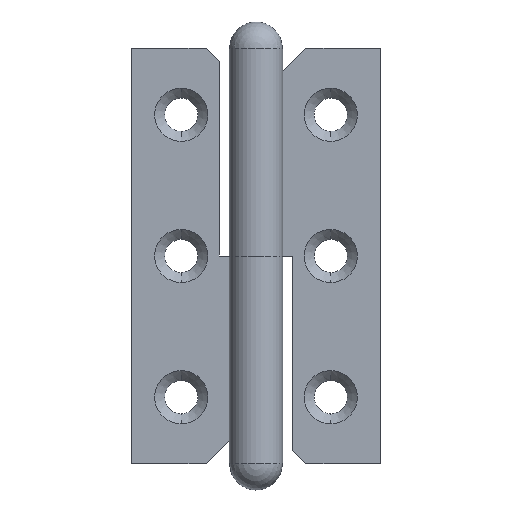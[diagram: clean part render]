
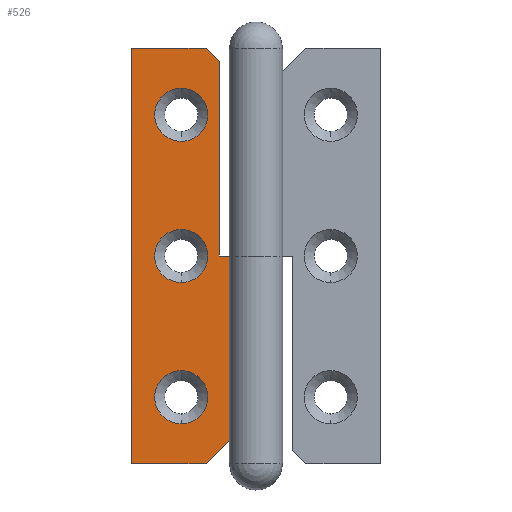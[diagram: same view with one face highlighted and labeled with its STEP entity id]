
A CAD part, front view. The second image highlights one B-rep face of the part: STEP entity #526.
In plain terms, the highlighted planar face has unit normal (0, -1, 0).
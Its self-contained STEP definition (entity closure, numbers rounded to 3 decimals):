
#157=CARTESIAN_POINT('',(-3.186,0.3,-25.0));
#158=VERTEX_POINT('',#157);
#166=CARTESIAN_POINT('',(-3.186,0.3,-47.186));
#167=VERTEX_POINT('',#166);
#168=CARTESIAN_POINT('',(-3.186,0.3,-25.0));
#169=DIRECTION('',(0.0,0.0,-1.0));
#170=VECTOR('',#169,22.186);
#171=LINE('',#168,#170);
#172=EDGE_CURVE('',#158,#167,#171,.T.);
#208=CARTESIAN_POINT('',(-9.0,0.3,-21.8));
#209=VERTEX_POINT('',#208);
#225=CARTESIAN_POINT('',(-9.0,0.3,-28.2));
#226=VERTEX_POINT('',#225);
#233=CARTESIAN_POINT('',(-9.0,0.3,-25.0));
#234=DIRECTION('',(0.0,1.0,0.0));
#235=DIRECTION('',(0.0,0.0,1.0));
#236=AXIS2_PLACEMENT_3D('',#233,#234,#235);
#237=CIRCLE('',#236,3.2);
#238=EDGE_CURVE('',#209,#226,#237,.T.);
#250=CARTESIAN_POINT('',(-9.,0.3,-4.8));
#251=VERTEX_POINT('',#250);
#267=CARTESIAN_POINT('',(-9.,0.3,-11.2));
#268=VERTEX_POINT('',#267);
#275=CARTESIAN_POINT('',(-9.,0.3,-8.0));
#276=DIRECTION('',(0.0,1.0,0.0));
#277=DIRECTION('',(0.0,0.0,1.0));
#278=AXIS2_PLACEMENT_3D('',#275,#276,#277);
#279=CIRCLE('',#278,3.2);
#280=EDGE_CURVE('',#251,#268,#279,.T.);
#292=CARTESIAN_POINT('',(-9.,0.3,-38.8));
#293=VERTEX_POINT('',#292);
#309=CARTESIAN_POINT('',(-9.,0.3,-45.2));
#310=VERTEX_POINT('',#309);
#317=CARTESIAN_POINT('',(-9.,0.3,-42.0));
#318=DIRECTION('',(0.0,1.0,0.0));
#319=DIRECTION('',(0.0,0.0,1.0));
#320=AXIS2_PLACEMENT_3D('',#317,#318,#319);
#321=CIRCLE('',#320,3.2);
#322=EDGE_CURVE('',#293,#310,#321,.T.);
#408=CARTESIAN_POINT('',(-4.4,0.3,-25.0));
#409=VERTEX_POINT('',#408);
#410=CARTESIAN_POINT('',(-4.4,0.3,-1.6));
#411=VERTEX_POINT('',#410);
#412=CARTESIAN_POINT('',(-4.4,0.3,-25.0));
#413=DIRECTION('',(0.0,0.0,1.0));
#414=VECTOR('',#413,23.4);
#415=LINE('',#412,#414);
#416=EDGE_CURVE('',#409,#411,#415,.T.);
#443=CARTESIAN_POINT('',(-7.5,0.3,-25.0));
#444=DIRECTION('',(0.0,-1.0,0.0));
#445=DIRECTION('',(1.0,0.0,0.0));
#446=AXIS2_PLACEMENT_3D('',#443,#444,#445);
#447=PLANE('',#446);
#448=CARTESIAN_POINT('',(-3.186,0.3,-25.0));
#449=DIRECTION('',(-1.0,0.0,0.0));
#450=VECTOR('',#449,1.214);
#451=LINE('',#448,#450);
#452=EDGE_CURVE('',#158,#409,#451,.T.);
#453=ORIENTED_EDGE('',*,*,#452,.T.);
#454=ORIENTED_EDGE('',*,*,#416,.T.);
#455=CARTESIAN_POINT('',(-6.,0.3,0.));
#456=VERTEX_POINT('',#455);
#457=CARTESIAN_POINT('',(-4.4,0.3,-1.6));
#458=DIRECTION('',(-0.707,0.,0.707));
#459=VECTOR('',#458,2.263);
#460=LINE('',#457,#459);
#461=EDGE_CURVE('',#411,#456,#460,.T.);
#462=ORIENTED_EDGE('',*,*,#461,.T.);
#463=CARTESIAN_POINT('',(-15.,0.3,0.));
#464=VERTEX_POINT('',#463);
#465=CARTESIAN_POINT('',(-6.,0.3,0.));
#466=DIRECTION('',(-1.0,0.0,0.0));
#467=VECTOR('',#466,9.0);
#468=LINE('',#465,#467);
#469=EDGE_CURVE('',#456,#464,#468,.T.);
#470=ORIENTED_EDGE('',*,*,#469,.T.);
#471=CARTESIAN_POINT('',(-15.,0.3,-50.0));
#472=VERTEX_POINT('',#471);
#473=CARTESIAN_POINT('',(-15.,0.3,0.));
#474=DIRECTION('',(0.0,0.0,-1.0));
#475=VECTOR('',#474,50.0);
#476=LINE('',#473,#475);
#477=EDGE_CURVE('',#464,#472,#476,.T.);
#478=ORIENTED_EDGE('',*,*,#477,.T.);
#479=CARTESIAN_POINT('',(-6.,0.3,-50.0));
#480=VERTEX_POINT('',#479);
#481=CARTESIAN_POINT('',(-15.,0.3,-50.0));
#482=DIRECTION('',(1.0,0.0,0.0));
#483=VECTOR('',#482,9.0);
#484=LINE('',#481,#483);
#485=EDGE_CURVE('',#472,#480,#484,.T.);
#486=ORIENTED_EDGE('',*,*,#485,.T.);
#487=CARTESIAN_POINT('',(-6.,0.3,-50.0));
#488=DIRECTION('',(0.707,0.,0.707));
#489=VECTOR('',#488,3.98);
#490=LINE('',#487,#489);
#491=EDGE_CURVE('',#480,#167,#490,.T.);
#492=ORIENTED_EDGE('',*,*,#491,.T.);
#493=ORIENTED_EDGE('',*,*,#172,.F.);
#494=EDGE_LOOP('',(#453,#454,#462,#470,#478,#486,#492,#493));
#495=FACE_OUTER_BOUND('',#494,.T.);
#496=ORIENTED_EDGE('',*,*,#238,.T.);
#497=CARTESIAN_POINT('',(-9.0,0.3,-25.0));
#498=DIRECTION('',(0.0,1.0,0.0));
#499=DIRECTION('',(0.0,0.0,1.0));
#500=AXIS2_PLACEMENT_3D('',#497,#498,#499);
#501=CIRCLE('',#500,3.2);
#502=EDGE_CURVE('',#226,#209,#501,.T.);
#503=ORIENTED_EDGE('',*,*,#502,.T.);
#504=EDGE_LOOP('',(#496,#503));
#505=FACE_BOUND('',#504,.T.);
#506=ORIENTED_EDGE('',*,*,#280,.T.);
#507=CARTESIAN_POINT('',(-9.,0.3,-8.0));
#508=DIRECTION('',(0.0,1.0,0.0));
#509=DIRECTION('',(0.0,0.0,1.0));
#510=AXIS2_PLACEMENT_3D('',#507,#508,#509);
#511=CIRCLE('',#510,3.2);
#512=EDGE_CURVE('',#268,#251,#511,.T.);
#513=ORIENTED_EDGE('',*,*,#512,.T.);
#514=EDGE_LOOP('',(#506,#513));
#515=FACE_BOUND('',#514,.T.);
#516=ORIENTED_EDGE('',*,*,#322,.T.);
#517=CARTESIAN_POINT('',(-9.,0.3,-42.0));
#518=DIRECTION('',(0.0,1.0,0.0));
#519=DIRECTION('',(0.0,0.0,1.0));
#520=AXIS2_PLACEMENT_3D('',#517,#518,#519);
#521=CIRCLE('',#520,3.2);
#522=EDGE_CURVE('',#310,#293,#521,.T.);
#523=ORIENTED_EDGE('',*,*,#522,.T.);
#524=EDGE_LOOP('',(#516,#523));
#525=FACE_BOUND('',#524,.T.);
#526=ADVANCED_FACE('',(#495,#505,#515,#525),#447,.T.);
